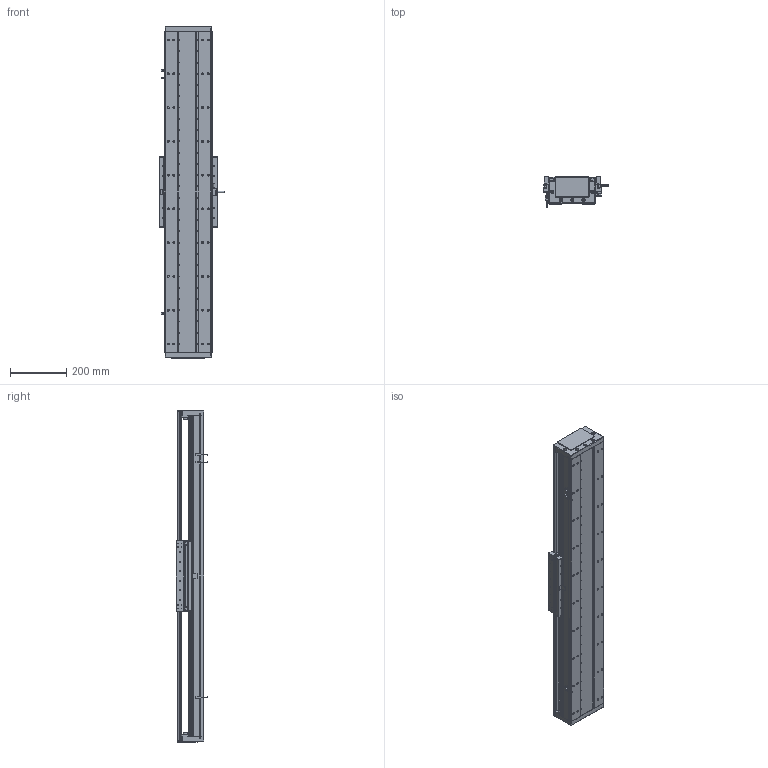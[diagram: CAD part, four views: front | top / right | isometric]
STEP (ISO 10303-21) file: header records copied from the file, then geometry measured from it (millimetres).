
FILE_DESCRIPTION (( 'STEP AP203' ), '1' );
FILE_NAME ('DA-C165-C3-T840-C010-0.2 直线电机.STEP', '2023-06-13T08:41:44', ( '微软用户' ), ( '微软中国' ), 'SwSTEP 2.0', 'SolidWorks 2019', '' );
FILE_SCHEMA (( 'CONFIG_CONTROL_DESIGN' ));
Length unit declared in the file: millimetre
Products named in the file (15): 复件 DA165-DG-H-N-00 端盖^DA-C165-C3-T-C010-0.2-N 直线电机; 复件 DA95-HXJ-00 缓冲橡胶^DA-C165-C3-T-C010-0.2-N 直线电机; 复件 六角薄螺母 M3^DA-C165-C3-T-C010-0.2-N 直线电机_GB_FASTENER_NUT_STNAB M3-C; DA-C165-C3-T840-C010-0.2 眻盄萇儂; 复件 DA165-T-002-00 盖板^DA-C165-C3-T-C010-0.2-N 直线电机_0840-002-00; 复件 DMA-010-0.2 读数头^DA-C165-C3-T-C010-0.2-N 直线电机; 复件 XD-U-02L 磁栅尺^DA-C165-C3-T-C010-0.2-N 直线电机_T; 葩璃 CKM03-W075-C1C2-TP-3.0^DA-C165-C3-T-C010-0.2-N 眻盄萇儂; 葩璃 PM-T45^DA-C165-C3-T-C010-0.2-N 眻盄萇儂; 复件 DA165-GYP-00 光电感应片^DA-C165-C3-T-C010-0.2-N 直线电机; 葩璃 DA95-GT-T-00^IU-CU165-L 菁釱絳寢_T; 葩璃 CKM01-W075-TRL^DA-C165-C3-T-C010-0.2-N 眻盄萇儂; 复件 CU165 底座^IU-CU165-L 底座导轨_L1140; 珨极趙賑雄怢啣C3-wf; IU-CU165-L 菁釱絳寢
Assembly tree (30 placements, depth 3):
  DA-C165-C3-T840-C010-0.2 眻盄萇儂
    IU-CU165-L 菁釱絳寢
      复件 CU165 底座^IU-CU165-L 底座导轨_L1140
      葩璃 DA95-GT-T-00^IU-CU165-L 菁釱絳寢_T  x4
    复件 DA165-DG-H-N-00 端盖^DA-C165-C3-T-C010-0.2-N 直线电机  x2
    复件 DA95-HXJ-00 缓冲橡胶^DA-C165-C3-T-C010-0.2-N 直线电机  x4
    复件 DA165-T-002-00 盖板^DA-C165-C3-T-C010-0.2-N 直线电机_0840-002-00
    复件 XD-U-02L 磁栅尺^DA-C165-C3-T-C010-0.2-N 直线电机_T
    葩璃 PM-T45^DA-C165-C3-T-C010-0.2-N 眻盄萇儂  x3
    葩璃 CKM01-W075-TRL^DA-C165-C3-T-C010-0.2-N 眻盄萇儂
    复件 DA165-GYP-00 光电感应片^DA-C165-C3-T-C010-0.2-N 直线电机
    复件 DMA-010-0.2 读数头^DA-C165-C3-T-C010-0.2-N 直线电机
    葩璃 CKM03-W075-C1C2-TP-3.0^DA-C165-C3-T-C010-0.2-N 眻盄萇儂
    复件 六角薄螺母 M3^DA-C165-C3-T-C010-0.2-N 直线电机_GB_FASTENER_NUT_STNAB M3-C  x8
    珨极趙賑雄怢啣C3-wf
Bounding box: 233 x 111.45 x 1180 mm (x, y, z)
Volume: 8954247.4 mm3; surface area: 2404538.1 mm2
Topology: 68 solids, 118 shells, 3615 faces, 9734 edges, 6042 vertices
Faces by surface type: cylinder 1826, plane 1179, cone 552, torus 54, sphere 4
Entity records: 108265 total; most frequent: CARTESIAN_POINT 26018, DIRECTION 17042, ORIENTED_EDGE 16522, EDGE_CURVE 8261, AXIS2_PLACEMENT_3D 6460, VERTEX_POINT 5330, LINE 4122, VECTOR 4122
